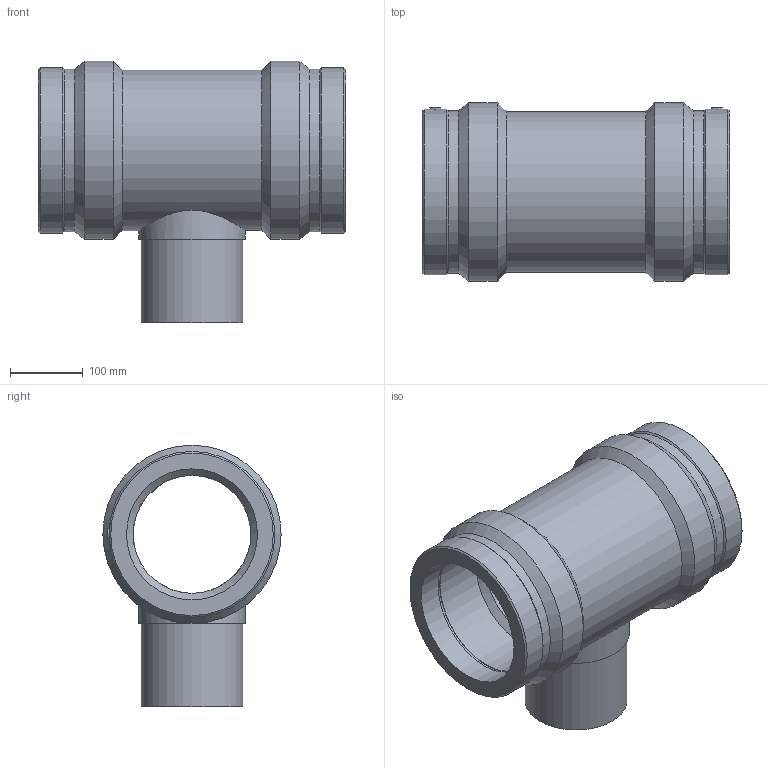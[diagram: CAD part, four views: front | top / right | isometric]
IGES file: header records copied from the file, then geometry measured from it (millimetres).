
Global section: file name: 491404180140.ipt; native system: Autodesk Inventor 2015; preprocessor: unknown; author: KIM; date: 20190909.112845; units: millimetre
Bounding box: 422 x 245 x 359.5 mm (x, y, z)
Volume: 7993748.8 mm3; surface area: 677626.5 mm2
Topology: 1 solids, 1 shells, 45 faces, 101 edges, 66 vertices
Faces by surface type: plane 12, revolution 12, cylinder 11, cone 10
Full cylindrical faces by diameter (mm): 4 x2, 140 x1, 147 x1, 220.5 x1, 223.293 x2, 227.85 x2, 245 x2
